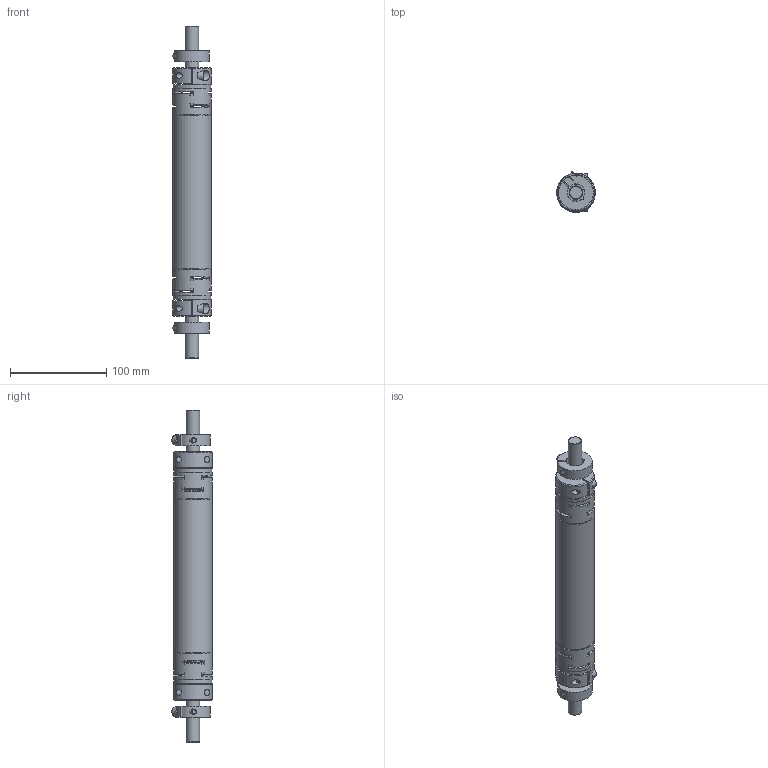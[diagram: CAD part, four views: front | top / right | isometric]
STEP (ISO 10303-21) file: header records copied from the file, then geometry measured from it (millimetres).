
FILE_DESCRIPTION(/* description */ ('Connecting shaft HLR080 - double axis distance = 350mm'),/* implementation_level */ '2;1');
FILE_NAME(/* name */ 'D:\InventorWorkspace2017\CAD\Projekte_EDEM\HLR\Zubehörteile\0242910-0350.stp',/* time_stamp */ '2019-02-13T11:18:34+01:00',/* author */ ('544672'),/* organization */ (''),/* preprocessor_version */ 'ST-DEVELOPER v16.5',/* originating_system */ 'Autodesk Inventor 2017',/* authorisation */ '');
FILE_SCHEMA (('AUTOMOTIVE_DESIGN { 1 0 10303 214 3 1 1 }'));
Length unit declared in the file: millimetre
Products named in the file (8): 0242.910-0350; 0241910-XXXX; ROTEX GS19 ZR3_Rohr_1; ROTEX GS19 ZR3_Klemmnabe D14; 0242007-02; 0241914; 0241012; 130-302345
Assembly tree (11 placements, depth 3):
  0242.910-0350
    0241910-XXXX
      ROTEX GS19 ZR3_Klemmnabe D14  x2
      ROTEX GS19 ZR3_Rohr_1
    0242007-02
      0241914  x2
      0241012  x2
      130-302345  x2
Bounding box: 40 x 41.78 x 345 mm (x, y, z)
Volume: 182075.7 mm3; surface area: 89213.2 mm2
Topology: 9 solids, 9 shells, 424 faces, 1188 edges, 790 vertices
Faces by surface type: cylinder 176, plane 154, cone 90, torus 4
Full cylindrical faces by diameter (mm): 3 x12, 4.917 x2, 6 x6, 6.4 x2, 6.6 x8, 10 x6, 14 x4, 18 x4, 22 x2, 34 x1, 39.4 x2, 40 x3
Entity records: 7305 total; most frequent: CARTESIAN_POINT 1526, DIRECTION 1269, ORIENTED_EDGE 1082, EDGE_CURVE 541, AXIS2_PLACEMENT_3D 540, VERTEX_POINT 383, EDGE_LOOP 294, CIRCLE 291
